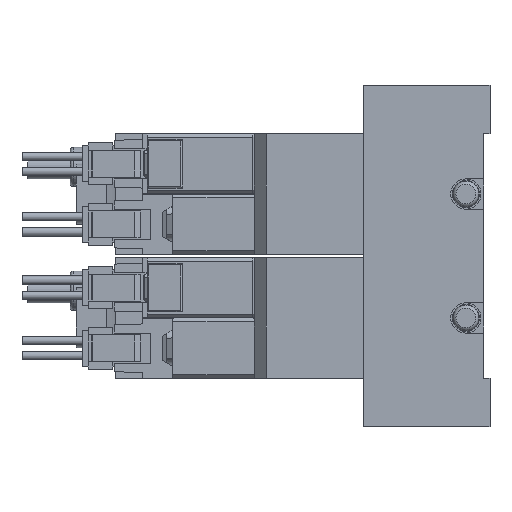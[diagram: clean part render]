
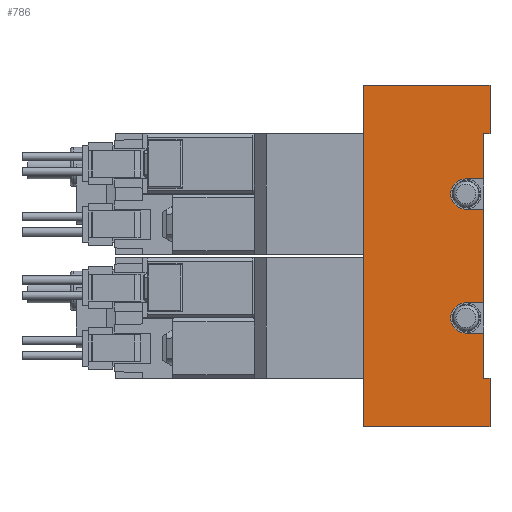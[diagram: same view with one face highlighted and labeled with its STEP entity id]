
A CAD part, left-side view. The second image highlights one B-rep face of the part: STEP entity #786.
In plain terms, the highlighted planar face has unit normal (-1, 0, 0) as drawn and (1, 0, 0) by its records, which use the part's own axes.
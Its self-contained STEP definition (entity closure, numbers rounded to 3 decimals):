
#786=ADVANCED_FACE('',(#1740),#1741,.F.);
#1740=FACE_OUTER_BOUND('',#2743,.T.);
#1741=PLANE('',#2744);
#2743=EDGE_LOOP('',(#6235,#6236,#6237,#6238,#6239,#6240,#6241,#6242,#6243,#6244,#6245,#6246,#6247,#6248,#6249,#6250));
#2744=AXIS2_PLACEMENT_3D('',#6251,#6252,#6253);
#6235=ORIENTED_EDGE('',*,*,#7513,.T.);
#6236=ORIENTED_EDGE('',*,*,#7521,.T.);
#6237=ORIENTED_EDGE('',*,*,#7522,.F.);
#6238=ORIENTED_EDGE('',*,*,#7510,.F.);
#6239=ORIENTED_EDGE('',*,*,#7523,.T.);
#6240=ORIENTED_EDGE('',*,*,#7495,.T.);
#6241=ORIENTED_EDGE('',*,*,#7491,.T.);
#6242=ORIENTED_EDGE('',*,*,#7518,.F.);
#6243=ORIENTED_EDGE('',*,*,#7524,.F.);
#6244=ORIENTED_EDGE('',*,*,#7444,.F.);
#6245=ORIENTED_EDGE('',*,*,#7488,.T.);
#6246=ORIENTED_EDGE('',*,*,#7525,.F.);
#6247=ORIENTED_EDGE('',*,*,#7468,.F.);
#6248=ORIENTED_EDGE('',*,*,#7499,.F.);
#6249=ORIENTED_EDGE('',*,*,#7484,.T.);
#6250=ORIENTED_EDGE('',*,*,#7465,.T.);
#6251=CARTESIAN_POINT('',(17.5,1.0,28.25));
#6252=DIRECTION('',(-1.0,0.0,0.0));
#6253=DIRECTION('',(0.0,0.0,1.0));
#7444=EDGE_CURVE('',#9261,#9262,#9263,.T.);
#7465=EDGE_CURVE('',#9293,#9302,#9304,.T.);
#7468=EDGE_CURVE('',#9308,#9310,#9311,.T.);
#7484=EDGE_CURVE('',#9339,#9293,#9340,.T.);
#7488=EDGE_CURVE('',#9261,#9345,#9347,.T.);
#7491=EDGE_CURVE('',#9352,#9350,#9353,.T.);
#7495=EDGE_CURVE('',#9359,#9352,#9360,.T.);
#7499=EDGE_CURVE('',#9339,#9308,#9365,.T.);
#7510=EDGE_CURVE('',#9382,#9384,#9385,.T.);
#7513=EDGE_CURVE('',#9302,#9387,#9388,.T.);
#7518=EDGE_CURVE('',#9396,#9350,#9397,.T.);
#7521=EDGE_CURVE('',#9387,#9400,#9401,.T.);
#7522=EDGE_CURVE('',#9384,#9400,#9402,.T.);
#7523=EDGE_CURVE('',#9382,#9359,#9403,.T.);
#7524=EDGE_CURVE('',#9262,#9396,#9404,.T.);
#7525=EDGE_CURVE('',#9310,#9345,#9405,.T.);
#9261=VERTEX_POINT('',#12243);
#9262=VERTEX_POINT('',#12244);
#9263=LINE('',#12245,#12246);
#9293=VERTEX_POINT('',#12324);
#9302=VERTEX_POINT('',#12337);
#9304=LINE('',#12340,#12341);
#9308=VERTEX_POINT('',#12345);
#9310=VERTEX_POINT('',#12348);
#9311=CIRCLE('',#12349,2.5);
#9339=VERTEX_POINT('',#12385);
#9340=LINE('',#12386,#12387);
#9345=VERTEX_POINT('',#12394);
#9347=LINE('',#12397,#12398);
#9350=VERTEX_POINT('',#12402);
#9352=VERTEX_POINT('',#12405);
#9353=LINE('',#12406,#12407);
#9359=VERTEX_POINT('',#12415);
#9360=LINE('',#12416,#12417);
#9365=LINE('',#12425,#12426);
#9382=VERTEX_POINT('',#12448);
#9384=VERTEX_POINT('',#12451);
#9385=LINE('',#12452,#12453);
#9387=VERTEX_POINT('',#12456);
#9388=LINE('',#12457,#12458);
#9396=VERTEX_POINT('',#12467);
#9397=LINE('',#12468,#12469);
#9400=VERTEX_POINT('',#12474);
#9401=LINE('',#12475,#12476);
#9402=LINE('',#12477,#12478);
#9403=LINE('',#12479,#12480);
#9404=CIRCLE('',#12481,2.5);
#9405=LINE('',#12482,#12483);
#12243=CARTESIAN_POINT('',(17.5,1.0,7.75));
#12244=CARTESIAN_POINT('',(17.5,4.0,7.75));
#12245=CARTESIAN_POINT('',(17.5,1.0,7.75));
#12246=VECTOR('',#13784,1.0);
#12324=CARTESIAN_POINT('',(17.5,1.0,-20.25));
#12337=CARTESIAN_POINT('',(17.5,0.0,-20.25));
#12340=CARTESIAN_POINT('',(17.5,4.0,-20.25));
#12341=VECTOR('',#13824,1.0);
#12345=CARTESIAN_POINT('',(17.5,4.0,-12.75));
#12348=CARTESIAN_POINT('',(17.5,4.0,-7.75));
#12349=AXIS2_PLACEMENT_3D('',#13829,#13830,#13831);
#12385=CARTESIAN_POINT('',(17.5,1.0,-12.75));
#12386=CARTESIAN_POINT('',(17.5,1.0,28.25));
#12387=VECTOR('',#13861,1.0);
#12394=CARTESIAN_POINT('',(17.5,1.0,-7.75));
#12397=CARTESIAN_POINT('',(17.5,1.0,28.25));
#12398=VECTOR('',#13865,1.0);
#12402=CARTESIAN_POINT('',(17.5,1.0,12.75));
#12405=CARTESIAN_POINT('',(17.5,1.0,20.25));
#12406=CARTESIAN_POINT('',(17.5,1.0,28.25));
#12407=VECTOR('',#13868,1.0);
#12415=CARTESIAN_POINT('',(17.5,0.0,20.25));
#12416=CARTESIAN_POINT('',(17.5,0.0,20.25));
#12417=VECTOR('',#13874,1.0);
#12425=CARTESIAN_POINT('',(17.5,1.0,-12.75));
#12426=VECTOR('',#13878,1.0);
#12448=CARTESIAN_POINT('',(17.5,0.0,28.25));
#12451=CARTESIAN_POINT('',(17.5,21.0,28.25));
#12452=CARTESIAN_POINT('',(17.5,1.0,28.25));
#12453=VECTOR('',#13897,1.0);
#12456=CARTESIAN_POINT('',(17.5,0.0,-28.25));
#12457=CARTESIAN_POINT('',(17.5,0.0,-20.25));
#12458=VECTOR('',#13899,1.0);
#12467=CARTESIAN_POINT('',(17.5,4.0,12.75));
#12468=CARTESIAN_POINT('',(17.5,1.0,12.75));
#12469=VECTOR('',#13910,1.0);
#12474=CARTESIAN_POINT('',(17.5,21.0,-28.25));
#12475=CARTESIAN_POINT('',(17.5,1.0,-28.25));
#12476=VECTOR('',#13913,1.0);
#12477=CARTESIAN_POINT('',(17.5,21.0,28.25));
#12478=VECTOR('',#13914,1.0);
#12479=CARTESIAN_POINT('',(17.5,0.0,28.25));
#12480=VECTOR('',#13915,1.0);
#12481=AXIS2_PLACEMENT_3D('',#13916,#13917,#13918);
#12482=CARTESIAN_POINT('',(17.5,1.0,-7.75));
#12483=VECTOR('',#13919,1.0);
#13784=DIRECTION('',(0.0,1.0,0.0));
#13824=DIRECTION('',(0.0,-1.0,0.0));
#13829=CARTESIAN_POINT('',(17.5,4.0,-10.25));
#13830=DIRECTION('',(1.0,0.0,-0.0));
#13831=DIRECTION('',(0.0,0.0,1.0));
#13861=DIRECTION('',(0.0,0.0,-1.0));
#13865=DIRECTION('',(0.0,0.0,-1.0));
#13868=DIRECTION('',(0.0,0.0,-1.0));
#13874=DIRECTION('',(0.0,1.0,0.0));
#13878=DIRECTION('',(0.0,1.0,0.0));
#13897=DIRECTION('',(0.0,1.0,0.0));
#13899=DIRECTION('',(0.0,0.0,-1.0));
#13910=DIRECTION('',(0.0,-1.0,0.0));
#13913=DIRECTION('',(0.0,1.0,0.0));
#13914=DIRECTION('',(0.0,0.0,-1.0));
#13915=DIRECTION('',(0.0,0.0,-1.0));
#13916=CARTESIAN_POINT('',(17.5,4.0,10.25));
#13917=DIRECTION('',(1.0,0.0,-0.0));
#13918=DIRECTION('',(0.0,0.0,1.0));
#13919=DIRECTION('',(0.0,-1.0,0.0));
